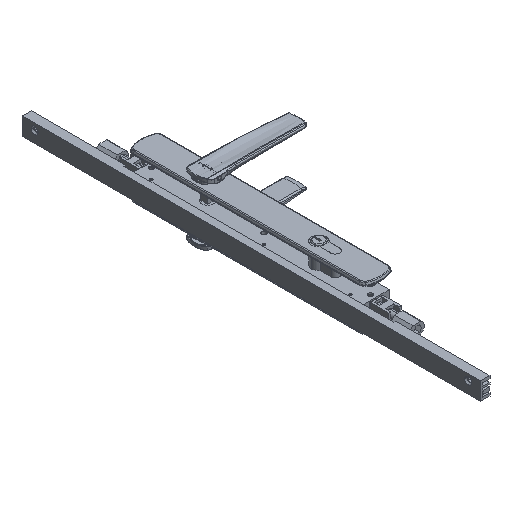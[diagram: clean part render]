
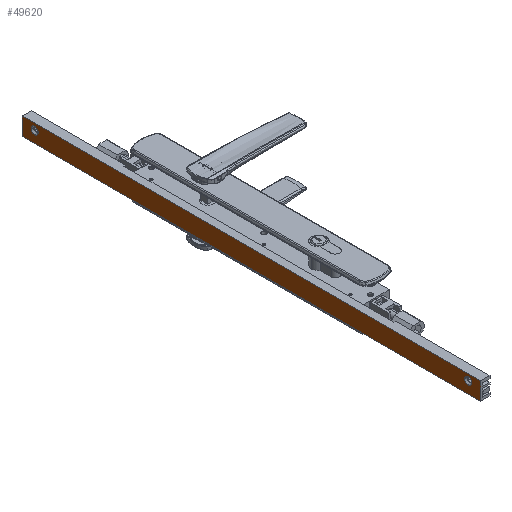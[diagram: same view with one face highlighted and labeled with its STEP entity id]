
A CAD part, isometric view. The second image highlights one B-rep face of the part: STEP entity #49620.
In plain terms, the highlighted planar face has unit normal (-1, 0, 0) as drawn and (0, 1, 0) by its records, which use the part's own axes.
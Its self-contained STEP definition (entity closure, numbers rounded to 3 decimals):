
#1702 = ORIENTED_EDGE ( 'NONE', *, *, #34147, .F. ) ;
#1903 = CARTESIAN_POINT ( 'NONE',  ( 11.8, 12.4, 10.784 ) ) ;
#3223 = DIRECTION ( 'NONE',  ( -1., 0., 0. ) ) ;
#4239 = CIRCLE ( 'NONE', #51015, 4.216 ) ;
#4810 = DIRECTION ( 'NONE',  ( 0., 0., 1. ) ) ;
#5170 = EDGE_CURVE ( 'NONE', #18965, #43655, #40935, .T. ) ;
#5920 = AXIS2_PLACEMENT_3D ( 'NONE', #7447, #51328, #11665 ) ;
#7447 = CARTESIAN_POINT ( 'NONE',  ( 11.8, 12.4, 529. ) ) ;
#8877 = ORIENTED_EDGE ( 'NONE', *, *, #12773, .F. ) ;
#9203 = EDGE_CURVE ( 'NONE', #12691, #15029, #50402, .T. ) ;
#10898 = CARTESIAN_POINT ( 'NONE',  ( 11.8, 12.4, 19.216 ) ) ;
#11201 = CARTESIAN_POINT ( 'NONE',  ( 20.8, 12.4, 544. ) ) ;
#11229 = LINE ( 'NONE', #39985, #16707 ) ;
#11542 = CARTESIAN_POINT ( 'NONE',  ( 19.3, 12.4, 0. ) ) ;
#11665 = DIRECTION ( 'NONE',  ( 0., 0., 1. ) ) ;
#12145 = DIRECTION ( 'NONE',  ( 0., 1., 0. ) ) ;
#12691 = VERTEX_POINT ( 'NONE', #50648 ) ;
#12773 = EDGE_CURVE ( 'NONE', #12691, #43591, #11229, .T. ) ;
#13427 = ORIENTED_EDGE ( 'NONE', *, *, #32977, .F. ) ;
#13908 = CARTESIAN_POINT ( 'NONE',  ( 19.3, 12.4, 544. ) ) ;
#13996 = ORIENTED_EDGE ( 'NONE', *, *, #26230, .F. ) ;
#14422 = LINE ( 'NONE', #30662, #23973 ) ;
#14589 = VERTEX_POINT ( 'NONE', #10898 ) ;
#15029 = VERTEX_POINT ( 'NONE', #11542 ) ;
#15417 = DIRECTION ( 'NONE',  ( 1., 0., 0. ) ) ;
#15559 = EDGE_CURVE ( 'NONE', #43591, #50127, #14422, .T. ) ;
#15576 = CARTESIAN_POINT ( 'NONE',  ( 11.8, 12.4, 529. ) ) ;
#15675 = FACE_OUTER_BOUND ( 'NONE', #43918, .T. ) ;
#15943 = PLANE ( 'NONE',  #25330 ) ;
#16079 = CIRCLE ( 'NONE', #5920, 4.216 ) ;
#16707 = VECTOR ( 'NONE', #3223, 1000. ) ;
#18965 = VERTEX_POINT ( 'NONE', #28162 ) ;
#19095 = LINE ( 'NONE', #38162, #39693 ) ;
#21291 = EDGE_CURVE ( 'NONE', #15029, #50127, #19095, .T. ) ;
#21627 = DIRECTION ( 'NONE',  ( 0., 0., -1. ) ) ;
#23430 = FACE_BOUND ( 'NONE', #45779, .T. ) ;
#23797 = ORIENTED_EDGE ( 'NONE', *, *, #9203, .T. ) ;
#23973 = VECTOR ( 'NONE', #46908, 1000. ) ;
#24258 = CARTESIAN_POINT ( 'NONE',  ( 11.8, 12.4, 15. ) ) ;
#24496 = DIRECTION ( 'NONE',  ( 0., 1., 0. ) ) ;
#24814 = CARTESIAN_POINT ( 'NONE',  ( -1.7, 12.4, 0. ) ) ;
#25330 = AXIS2_PLACEMENT_3D ( 'NONE', #11201, #51905, #15417 ) ;
#26230 = EDGE_CURVE ( 'NONE', #43655, #18965, #16079, .T. ) ;
#27288 = EDGE_LOOP ( 'NONE', ( #43343, #13996 ) ) ;
#27854 = DIRECTION ( 'NONE',  ( 0., 0., 1. ) ) ;
#28162 = CARTESIAN_POINT ( 'NONE',  ( 11.8, 12.4, 533.216 ) ) ;
#29027 = CARTESIAN_POINT ( 'NONE',  ( 11.8, 12.4, 15. ) ) ;
#30662 = CARTESIAN_POINT ( 'NONE',  ( -1.7, 12.4, 544. ) ) ;
#30671 = AXIS2_PLACEMENT_3D ( 'NONE', #15576, #12145, #27854 ) ;
#31098 = DIRECTION ( 'NONE',  ( -1., 0., 0. ) ) ;
#32977 = EDGE_CURVE ( 'NONE', #48281, #14589, #45837, .T. ) ;
#34147 = EDGE_CURVE ( 'NONE', #14589, #48281, #4239, .T. ) ;
#36269 = DIRECTION ( 'NONE',  ( 0., 1., 0. ) ) ;
#38162 = CARTESIAN_POINT ( 'NONE',  ( 20.8, 12.4, 0. ) ) ;
#39278 = CARTESIAN_POINT ( 'NONE',  ( 11.8, 12.4, 524.784 ) ) ;
#39693 = VECTOR ( 'NONE', #31098, 1000. ) ;
#39907 = AXIS2_PLACEMENT_3D ( 'NONE', #29027, #24496, #4810 ) ;
#39985 = CARTESIAN_POINT ( 'NONE',  ( 20.8, 12.4, 544. ) ) ;
#40935 = CIRCLE ( 'NONE', #30671, 4.216 ) ;
#42246 = ORIENTED_EDGE ( 'NONE', *, *, #21291, .T. ) ;
#43343 = ORIENTED_EDGE ( 'NONE', *, *, #5170, .F. ) ;
#43591 = VERTEX_POINT ( 'NONE', #46240 ) ;
#43655 = VERTEX_POINT ( 'NONE', #39278 ) ;
#43918 = EDGE_LOOP ( 'NONE', ( #8877, #23797, #42246, #46414 ) ) ;
#44538 = VECTOR ( 'NONE', #21627, 1000. ) ;
#45331 = DIRECTION ( 'NONE',  ( 0., 0., 1. ) ) ;
#45779 = EDGE_LOOP ( 'NONE', ( #1702, #13427 ) ) ;
#45837 = CIRCLE ( 'NONE', #39907, 4.216 ) ;
#46240 = CARTESIAN_POINT ( 'NONE',  ( -1.7, 12.4, 544. ) ) ;
#46414 = ORIENTED_EDGE ( 'NONE', *, *, #15559, .F. ) ;
#46908 = DIRECTION ( 'NONE',  ( 0., 0., -1. ) ) ;
#48281 = VERTEX_POINT ( 'NONE', #1903 ) ;
#49620 = ADVANCED_FACE ( 'NONE', ( #23430, #52422, #15675 ), #15943, .F. ) ;
#50127 = VERTEX_POINT ( 'NONE', #24814 ) ;
#50402 = LINE ( 'NONE', #13908, #44538 ) ;
#50648 = CARTESIAN_POINT ( 'NONE',  ( 19.3, 12.4, 544. ) ) ;
#51015 = AXIS2_PLACEMENT_3D ( 'NONE', #24258, #36269, #45331 ) ;
#51328 = DIRECTION ( 'NONE',  ( 0., 1., 0. ) ) ;
#51905 = DIRECTION ( 'NONE',  ( 0., -1., 0. ) ) ;
#52422 = FACE_BOUND ( 'NONE', #27288, .T. ) ;
